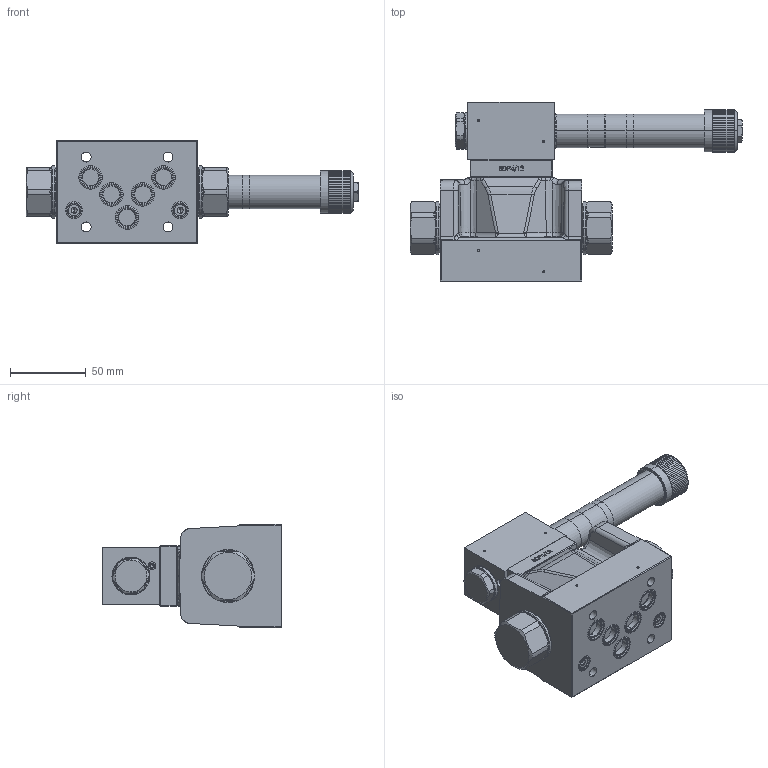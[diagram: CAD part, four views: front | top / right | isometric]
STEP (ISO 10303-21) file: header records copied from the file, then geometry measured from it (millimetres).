
FILE_DESCRIPTION (( 'STEP AP214' ), '1' );
FILE_NAME ('WVZFA10-4_2-Bside-ae_xi_xe_ti.STEP', '2019-06-26T07:05:39', ( '' ), ( '' ), 'SwSTEP 2.0', 'SolidWorks 2018', '' );
FILE_SCHEMA (( 'AUTOMOTIVE_DESIGN' ));
Length unit declared in the file: millimetre
Products named in the file (1): WVZFA10-4_2-Bside-ae_xi_xe_ti
Bounding box: 219.05 x 118.6 x 68 mm (x, y, z)
Volume: 548469.3 mm3; surface area: 78322 mm2
Topology: 11 solids, 12 shells, 1482 faces, 3750 edges, 2378 vertices
Faces by surface type: plane 645, cylinder 390, bspline 226, cone 140, torus 81
Entity records: 69133 total; most frequent: CARTESIAN_POINT 18917, ORIENTED_EDGE 7460, DIRECTION 6520, EDGE_CURVE 3730, VERTEX_POINT 2378, AXIS2_PLACEMENT_3D 2360, LINE 1800, VECTOR 1800
